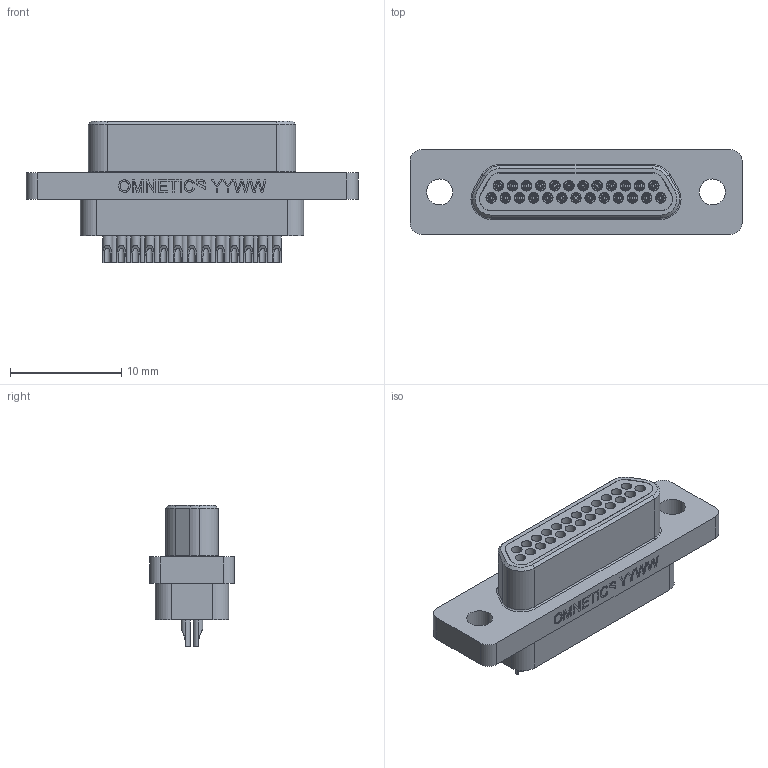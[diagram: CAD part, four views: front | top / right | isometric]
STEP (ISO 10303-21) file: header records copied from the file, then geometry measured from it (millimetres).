
FILE_DESCRIPTION (( 'STEP AP214' ), '1' );
FILE_NAME ('A98000-025 REV B.STEP', '2013-06-13T15:54:00', ( '' ), ( '' ), 'SwSTEP 2.0', 'SolidWorks 2012', '' );
FILE_SCHEMA (( 'AUTOMOTIVE_DESIGN' ));
Length unit declared in the file: inch
Products named in the file (1): A98000-025 REV B
Bounding box: 29.84 x 7.63 x 12.73 mm (x, y, z)
Volume: 1209.7 mm3; surface area: 2287.3 mm2
Topology: 1 solids, 1 shells, 917 faces, 2043 edges, 1213 vertices
Faces by surface type: cylinder 406, plane 261, cone 155, torus 55, bspline 40
Entity records: 28456 total; most frequent: CARTESIAN_POINT 8069, DIRECTION 4490, ORIENTED_EDGE 3974, EDGE_CURVE 1987, AXIS2_PLACEMENT_3D 1756, VERTEX_POINT 1213, EDGE_LOOP 1062, LINE 978
